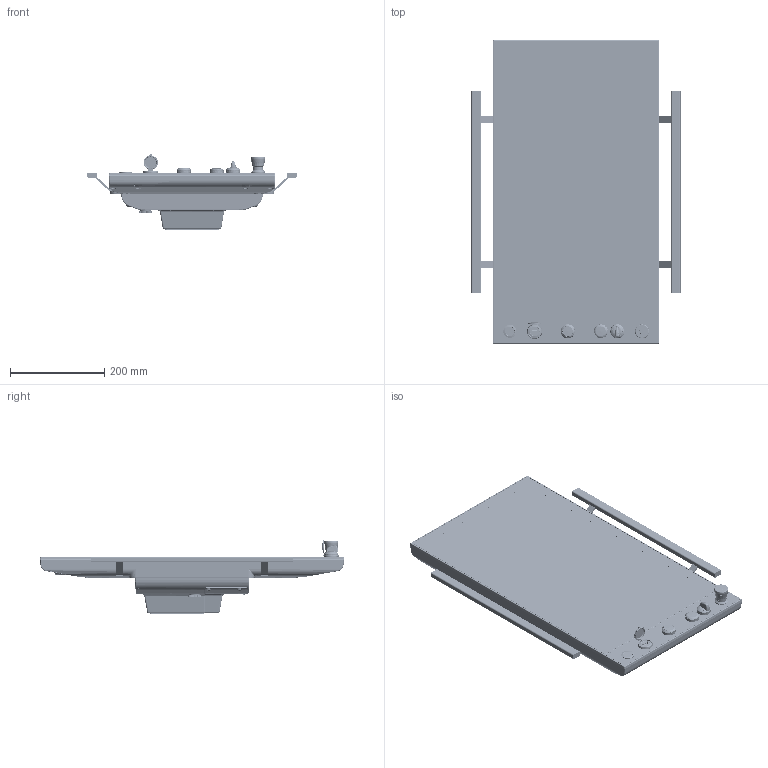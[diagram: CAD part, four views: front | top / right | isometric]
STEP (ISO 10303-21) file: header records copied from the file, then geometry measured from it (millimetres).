
FILE_DESCRIPTION (( 'STEP AP214' ), '1' );
FILE_NAME ('DIMA VK3500P-BA 24.0 VESA CON MANIGLIE.STEP', '2021-09-14T09:28:03', ( '' ), ( '' ), 'SwSTEP 2.0', 'SolidWorks 2021', '' );
FILE_SCHEMA (( 'AUTOMOTIVE_DESIGN' ));
Length unit declared in the file: millimetre
Products named in the file (33): 55600023; 58755018; 57342391; 93657770; 66811015; 69111035; 56636969; 26020035; 57836083_Default<A macchina>; 56600719; 55455178; 56202011; 57836084; 56202012; 26140000; 50342043; 56600724; 58755015; 69111016; DIMA VK3500P-BA 24.0 VESA CON MANIGLIE; 48000080; 69111032; 56636972_Default<A macchina>; 26020037; 69111017; 56600718; kit_posteriore_vesa_usb3; 60290002; 26020043; 26020033; 21507074; 55688019; 56236074
Assembly tree (56 placements, depth 4):
  DIMA VK3500P-BA 24.0 VESA CON MANIGLIE
    56600719
      56600718
        56636969
        50342043
        55455178
      55600023
        55688019
        48000080
        21507074
    56600724
      56636972_Default<A macchina>
      57342391
    57836084
      57836083_Default<A macchina>
    kit_posteriore_vesa_usb3
    60290002  x6
    69111032  x2
    58755018  x2
    56236074  x2
    56202012  x4
      56202011
    66811015  x8
    69111035  x4
    69111017  x2
    69111016  x2
    58755015  x2
    26020037
    26020033
    26020035
    26140000
    26020043
    93657770
Bounding box: 442.9 x 643.85 x 159.97 mm (x, y, z)
Volume: 2020381 mm3; surface area: 1868031.8 mm2
Topology: 95 solids, 220 shells, 10448 faces, 27691 edges, 17664 vertices
Faces by surface type: plane 4661, cylinder 2958, cone 1380, bspline 983, torus 345, sphere 121
Entity records: 468457 total; most frequent: CARTESIAN_POINT 178160, ORIENTED_EDGE 50269, DIRECTION 44521, EDGE_CURVE 25755, VERTEX_POINT 16521, AXIS2_PLACEMENT_3D 15959, LINE 12603, VECTOR 12603
